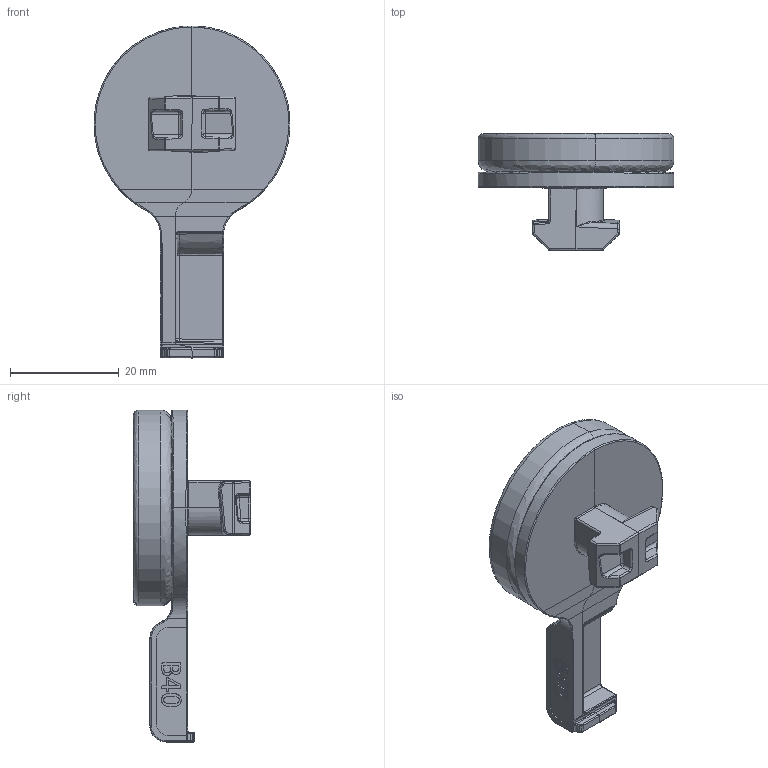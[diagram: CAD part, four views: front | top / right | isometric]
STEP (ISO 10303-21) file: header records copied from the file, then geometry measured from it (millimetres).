
FILE_DESCRIPTION (( 'STEP AP214' ), '1' );
FILE_NAME ('098T040KGN10.step', '2018-12-03T15:54:22', ( '' ), ( '' ), 'SwSTEP 2.0', 'SolidWorks 2017', '' );
FILE_SCHEMA (( 'AUTOMOTIVE_DESIGN' ));
Length unit declared in the file: millimetre
Products named in the file (3): FATH-00016820_098TG040; FATH-00016704M_098T040KGN10R01; 098T040KGN10
Assembly tree (2 placements, depth 2):
  098T040KGN10
    FATH-00016704M_098T040KGN10R01
    FATH-00016820_098TG040
Bounding box: 36 x 21.5 x 61 mm (x, y, z)
Volume: 12277.3 mm3; surface area: 7068 mm2
Topology: 2 solids, 2 shells, 369 faces, 848 edges, 488 vertices
Faces by surface type: bspline 158, cylinder 110, plane 88, cone 13
Entity records: 14854 total; most frequent: CARTESIAN_POINT 7504, ORIENTED_EDGE 1688, DIRECTION 1244, EDGE_CURVE 844, VERTEX_POINT 488, AXIS2_PLACEMENT_3D 444, EDGE_LOOP 378, FACE_OUTER_BOUND 369
